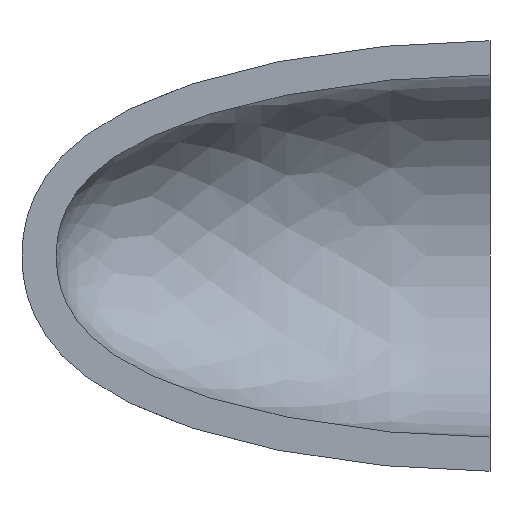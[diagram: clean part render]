
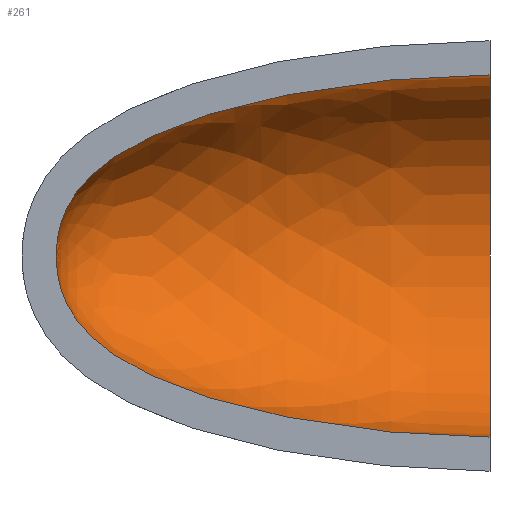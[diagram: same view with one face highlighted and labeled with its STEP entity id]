
A CAD part, left-side view. The second image highlights one B-rep face of the part: STEP entity #261.
In plain terms, the highlighted face is a revolution surface.
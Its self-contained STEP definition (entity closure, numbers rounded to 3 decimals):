
#100=CARTESIAN_POINT('Axis2P3D Location',(0.,0.,0.)) ;
#104=CARTESIAN_POINT('Vertex',(0.,0.,53.)) ;
#106=CARTESIAN_POINT('Vertex',(0.,0.,-53.)) ;
#132=CARTESIAN_POINT('Control Point',(0.,0.,-53.)) ;
#133=CARTESIAN_POINT('Control Point',(0.,2.35,-53.)) ;
#134=CARTESIAN_POINT('Control Point',(0.,4.73,-52.972)) ;
#135=CARTESIAN_POINT('Control Point',(0.,7.136,-52.917)) ;
#136=CARTESIAN_POINT('Control Point',(0.,12.208,-52.747)) ;
#137=CARTESIAN_POINT('Control Point',(0.,17.372,-52.466)) ;
#138=CARTESIAN_POINT('Control Point',(0.,20.084,-52.29)) ;
#139=CARTESIAN_POINT('Control Point',(0.,25.859,-51.855)) ;
#140=CARTESIAN_POINT('Control Point',(0.,31.701,-51.289)) ;
#141=CARTESIAN_POINT('Control Point',(0.,34.797,-50.953)) ;
#142=CARTESIAN_POINT('Control Point',(0.,41.786,-50.114)) ;
#143=CARTESIAN_POINT('Control Point',(0.,48.803,-49.078)) ;
#144=CARTESIAN_POINT('Control Point',(0.,52.703,-48.44)) ;
#145=CARTESIAN_POINT('Control Point',(0.,60.561,-47.018)) ;
#146=CARTESIAN_POINT('Control Point',(0.,68.342,-45.303)) ;
#147=CARTESIAN_POINT('Control Point',(0.,72.239,-44.358)) ;
#148=CARTESIAN_POINT('Control Point',(0.,81.159,-41.971)) ;
#149=CARTESIAN_POINT('Control Point',(0.,89.752,-39.074)) ;
#150=CARTESIAN_POINT('Control Point',(0.,94.493,-37.243)) ;
#151=CARTESIAN_POINT('Control Point',(0.,101.055,-34.294)) ;
#152=CARTESIAN_POINT('Control Point',(0.,107.003,-30.873)) ;
#153=CARTESIAN_POINT('Control Point',(0.,108.775,-29.769)) ;
#154=CARTESIAN_POINT('Control Point',(0.,111.972,-27.599)) ;
#155=CARTESIAN_POINT('Control Point',(0.,114.862,-25.264)) ;
#156=CARTESIAN_POINT('Control Point',(0.,116.146,-24.13)) ;
#157=CARTESIAN_POINT('Control Point',(0.,118.196,-22.137)) ;
#158=CARTESIAN_POINT('Control Point',(0.,119.998,-20.046)) ;
#159=CARTESIAN_POINT('Control Point',(0.,120.699,-19.163)) ;
#160=CARTESIAN_POINT('Control Point',(0.,122.,-17.38)) ;
#161=CARTESIAN_POINT('Control Point',(0.,123.12,-15.53)) ;
#162=CARTESIAN_POINT('Control Point',(0.,123.63,-14.596)) ;
#163=CARTESIAN_POINT('Control Point',(0.,124.557,-12.701)) ;
#164=CARTESIAN_POINT('Control Point',(0.,125.308,-10.729)) ;
#165=CARTESIAN_POINT('Control Point',(0.,125.637,-9.728)) ;
#166=CARTESIAN_POINT('Control Point',(0.,126.202,-7.707)) ;
#167=CARTESIAN_POINT('Control Point',(0.,126.596,-5.597)) ;
#168=CARTESIAN_POINT('Control Point',(0.,126.749,-4.532)) ;
#169=CARTESIAN_POINT('Control Point',(0.,126.906,-2.994)) ;
#170=CARTESIAN_POINT('Control Point',(0.,126.979,-1.412)) ;
#171=CARTESIAN_POINT('Control Point',(0.,126.993,-0.945)) ;
#172=CARTESIAN_POINT('Control Point',(0.,127.,-0.474)) ;
#173=CARTESIAN_POINT('Control Point',(0.,127.,0.)) ;
#174=CARTESIAN_POINT('Vertex',(0.,127.,0.)) ;
#178=CARTESIAN_POINT('Control Point',(0.,0.,53.)) ;
#179=CARTESIAN_POINT('Control Point',(0.,2.35,53.)) ;
#180=CARTESIAN_POINT('Control Point',(0.,4.73,52.972)) ;
#181=CARTESIAN_POINT('Control Point',(0.,7.136,52.917)) ;
#182=CARTESIAN_POINT('Control Point',(0.,12.208,52.747)) ;
#183=CARTESIAN_POINT('Control Point',(0.,17.372,52.466)) ;
#184=CARTESIAN_POINT('Control Point',(0.,20.084,52.29)) ;
#185=CARTESIAN_POINT('Control Point',(0.,25.859,51.855)) ;
#186=CARTESIAN_POINT('Control Point',(0.,31.701,51.289)) ;
#187=CARTESIAN_POINT('Control Point',(0.,34.797,50.953)) ;
#188=CARTESIAN_POINT('Control Point',(0.,41.786,50.114)) ;
#189=CARTESIAN_POINT('Control Point',(0.,48.803,49.078)) ;
#190=CARTESIAN_POINT('Control Point',(0.,52.703,48.44)) ;
#191=CARTESIAN_POINT('Control Point',(0.,60.561,47.018)) ;
#192=CARTESIAN_POINT('Control Point',(0.,68.342,45.303)) ;
#193=CARTESIAN_POINT('Control Point',(0.,72.239,44.358)) ;
#194=CARTESIAN_POINT('Control Point',(0.,81.159,41.971)) ;
#195=CARTESIAN_POINT('Control Point',(0.,89.752,39.074)) ;
#196=CARTESIAN_POINT('Control Point',(0.,94.493,37.243)) ;
#197=CARTESIAN_POINT('Control Point',(0.,101.055,34.294)) ;
#198=CARTESIAN_POINT('Control Point',(0.,107.003,30.873)) ;
#199=CARTESIAN_POINT('Control Point',(0.,108.775,29.769)) ;
#200=CARTESIAN_POINT('Control Point',(0.,111.972,27.599)) ;
#201=CARTESIAN_POINT('Control Point',(0.,114.862,25.264)) ;
#202=CARTESIAN_POINT('Control Point',(0.,116.146,24.13)) ;
#203=CARTESIAN_POINT('Control Point',(0.,118.196,22.137)) ;
#204=CARTESIAN_POINT('Control Point',(0.,119.998,20.046)) ;
#205=CARTESIAN_POINT('Control Point',(0.,120.699,19.163)) ;
#206=CARTESIAN_POINT('Control Point',(0.,122.,17.38)) ;
#207=CARTESIAN_POINT('Control Point',(0.,123.12,15.53)) ;
#208=CARTESIAN_POINT('Control Point',(0.,123.63,14.596)) ;
#209=CARTESIAN_POINT('Control Point',(0.,124.557,12.701)) ;
#210=CARTESIAN_POINT('Control Point',(0.,125.308,10.729)) ;
#211=CARTESIAN_POINT('Control Point',(0.,125.637,9.728)) ;
#212=CARTESIAN_POINT('Control Point',(0.,126.202,7.707)) ;
#213=CARTESIAN_POINT('Control Point',(0.,126.596,5.597)) ;
#214=CARTESIAN_POINT('Control Point',(0.,126.749,4.532)) ;
#215=CARTESIAN_POINT('Control Point',(0.,126.906,2.994)) ;
#216=CARTESIAN_POINT('Control Point',(0.,126.979,1.412)) ;
#217=CARTESIAN_POINT('Control Point',(0.,126.993,0.945)) ;
#218=CARTESIAN_POINT('Control Point',(0.,127.,0.474)) ;
#219=CARTESIAN_POINT('Control Point',(0.,127.,0.)) ;
#231=CARTESIAN_POINT('Control Point',(0.,0.,53.)) ;
#232=CARTESIAN_POINT('Control Point',(0.,7.245,53.)) ;
#233=CARTESIAN_POINT('Control Point',(0.,15.02,52.733)) ;
#234=CARTESIAN_POINT('Control Point',(0.,23.302,52.194)) ;
#235=CARTESIAN_POINT('Control Point',(0.,40.599,50.527)) ;
#236=CARTESIAN_POINT('Control Point',(0.,58.563,47.556)) ;
#237=CARTESIAN_POINT('Control Point',(0.,67.512,45.716)) ;
#238=CARTESIAN_POINT('Control Point',(0.,80.49,42.363)) ;
#239=CARTESIAN_POINT('Control Point',(0.,92.186,38.104)) ;
#240=CARTESIAN_POINT('Control Point',(0.,95.908,36.583)) ;
#241=CARTESIAN_POINT('Control Point',(0.,102.929,33.342)) ;
#242=CARTESIAN_POINT('Control Point',(0.,108.986,29.731)) ;
#243=CARTESIAN_POINT('Control Point',(0.,111.744,27.84)) ;
#244=CARTESIAN_POINT('Control Point',(0.,116.672,23.914)) ;
#245=CARTESIAN_POINT('Control Point',(0.,120.418,19.735)) ;
#246=CARTESIAN_POINT('Control Point',(0.,121.993,17.592)) ;
#247=CARTESIAN_POINT('Control Point',(0.,124.596,13.181)) ;
#248=CARTESIAN_POINT('Control Point',(0.,126.169,8.349)) ;
#249=CARTESIAN_POINT('Control Point',(0.,126.714,5.785)) ;
#250=CARTESIAN_POINT('Control Point',(0.,127.,3.009)) ;
#251=CARTESIAN_POINT('Control Point',(0.,127.,0.)) ;
#252=CARTESIAN_POINT('Axis1P Location',(0.,0.,0.)) ;
#101=DIRECTION('Axis2P3D Direction',(0.,1.,0.)) ;
#253=DIRECTION('Axis1P Direction',(0.,1.,0.)) ;
#102=AXIS2_PLACEMENT_3D('Circle Axis2P3D',#100,#101,$) ;
#257=ORIENTED_EDGE('',*,*,#108,.F.) ;
#258=ORIENTED_EDGE('',*,*,#220,.T.) ;
#259=ORIENTED_EDGE('',*,*,#176,.F.) ;
#261=ADVANCED_FACE('PartBody',(#260),#255,.F.) ;
#254=AXIS1_PLACEMENT('Revolution Surface Axis1P',#252,#253) ;
#131=B_SPLINE_CURVE_WITH_KNOTS('',5,(#132,#133,#134,#135,#136,#137,#138,#139,#140,#141,#142,#143,#144,#145,#146,#147,#148,#149,#150,#151,#152,#153,#154,#155,#156,#157,#158,#159,#160,#161,#162,#163,#164,#165,#166,#167,#168,#169,#170,#171,#172,#173),.UNSPECIFIED.,.F.,.U.,(6,3,3,3,3,3,3,3,3,3,3,3,3,6),(0.,16.961,35.4,55.966,81.691,107.914,142.387,157.805,171.457,181.098,190.585,199.98,209.153,212.954),.UNSPECIFIED.) ;
#177=B_SPLINE_CURVE_WITH_KNOTS('',5,(#178,#179,#180,#181,#182,#183,#184,#185,#186,#187,#188,#189,#190,#191,#192,#193,#194,#195,#196,#197,#198,#199,#200,#201,#202,#203,#204,#205,#206,#207,#208,#209,#210,#211,#212,#213,#214,#215,#216,#217,#218,#219),.UNSPECIFIED.,.F.,.U.,(6,3,3,3,3,3,3,3,3,3,3,3,3,6),(0.,16.961,35.4,55.966,81.691,107.914,142.387,157.805,171.457,181.098,190.585,199.98,209.153,212.954),.UNSPECIFIED.) ;
#230=B_SPLINE_CURVE_WITH_KNOTS('',5,(#231,#232,#233,#234,#235,#236,#237,#238,#239,#240,#241,#242,#243,#244,#245,#246,#247,#248,#249,#250,#251),.UNSPECIFIED.,.F.,.U.,(6,3,3,3,3,3,6),(0.,37.698,75.396,94.245,113.093,131.942,150.791),.UNSPECIFIED.) ;
#103=CIRCLE('generated circle',#102,53.) ;
#108=EDGE_CURVE('',#105,#107,#103,.T.) ;
#176=EDGE_CURVE('',#107,#175,#131,.T.) ;
#220=EDGE_CURVE('',#105,#175,#177,.T.) ;
#256=EDGE_LOOP('',(#257,#258,#259)) ;
#260=FACE_OUTER_BOUND('',#256,.T.) ;
#255=SURFACE_OF_REVOLUTION('Surface of Revolution',#230,#254) ;
#105=VERTEX_POINT('',#104) ;
#107=VERTEX_POINT('',#106) ;
#175=VERTEX_POINT('',#174) ;
